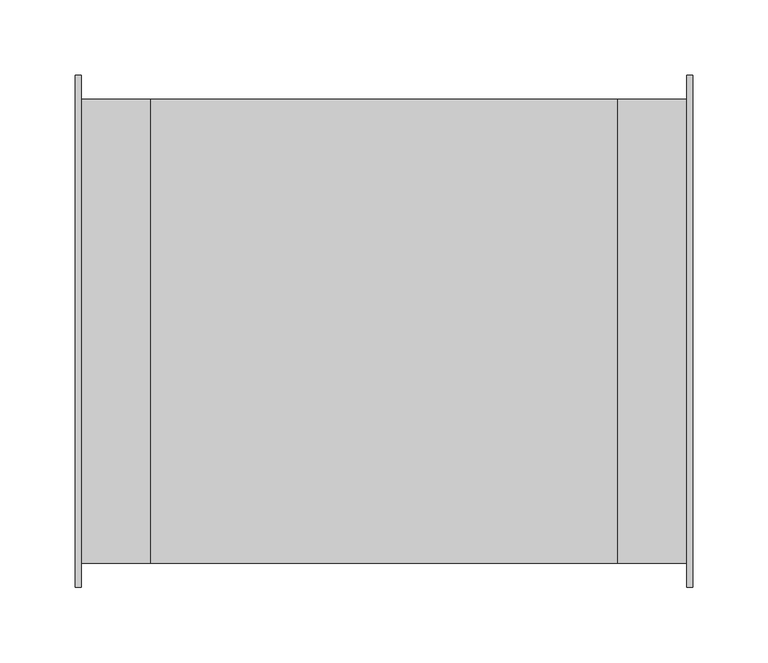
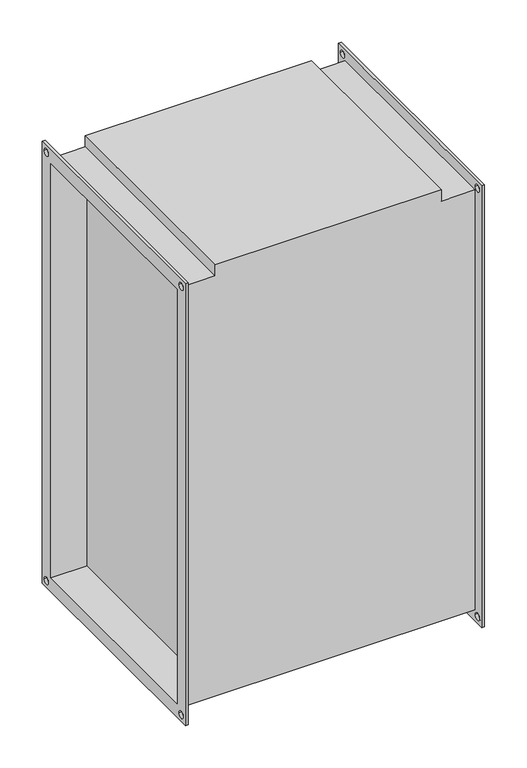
"""IFC4 building model written with IfcOpenShell, lengths in millimetres: proxy geometry, СВ_ВоздухонагревательЭлектрический_КанальныйПрямоугольный_200-1000_SPH-E : SPH-E-600x300/15."""

from ifc_helpers import new_model, si_unit, frame, origin, place, context, project, spatial, polyline, circle_curve, source, transform, mapped, element, save
from ifc_brep_helpers import plane_surface, revolved_surface, advanced_brep


def mechanical_equipment_3e8a8446(model_context):
    return source(origin(), model_context, "Body", "AdvancedBrep", [
        advanced_brep(
        [(-155.0, -154.0, 304.0), (-201.0, -154.0, 304.0), (-201.0, -154.0, -304.0), (201.0, -154.0, -304.0), (201.0, -154.0, 304.0), (155.0, -154.0, 304.0), (155.0, -154.0, 320.0), (-155.0, -154.0, 320.0), (-201.0, 154.0, -304.0), (201.0, 154.0, -304.0), (-201.0, 154.0, 304.0), (-155.0, 154.0, 304.0), (-155.0, 154.0, 320.0), (155.0, 154.0, 320.0), (155.0, 154.0, 304.0), (201.0, 154.0, 304.0), (155.0, 150.0, -300.0), (155.0, 150.0, 300.0), (155.0, -150.0, 300.0), (155.0, -150.0, -300.0), (-155.0, -150.0, 300.0), (-155.0, 150.0, 300.0), (-155.0, 150.0, -300.0), (-155.0, -150.0, -300.0), (-205.0, -170.0, 320.0), (-205.0, 170.0, 320.0), (-205.0, 170.0, -320.0), (-205.0, -170.0, -320.0), (-205.0, -150.0, 300.0), (-205.0, -150.0, -300.0), (-205.0, 150.0, -300.0), (-205.0, 150.0, 300.0), (-205.0, 155.0, 310.0), (-205.0, 165.0, 310.0), (-205.0, -165.0, 310.0), (-205.0, -155.0, 310.0), (-205.0, -165.0, -310.0), (-205.0, -155.0, -310.0), (-205.0, 155.0, -310.0), (-205.0, 165.0, -310.0), (-201.0, -170.0, 320.0), (-201.0, -170.0, -320.0), (-201.0, 170.0, -320.0), (-201.0, 170.0, 320.0), (-201.0, 165.0, 310.0), (-201.0, 155.0, 310.0), (-201.0, -155.0, 310.0), (-201.0, -165.0, 310.0), (-201.0, -155.0, -310.0), (-201.0, -165.0, -310.0), (-201.0, 165.0, -310.0), (-201.0, 155.0, -310.0), (201.0, 170.0, 320.0), (201.0, 170.0, -320.0), (201.0, -170.0, -320.0), (201.0, -170.0, 320.0), (201.0, 155.0, 310.0), (201.0, 165.0, 310.0), (201.0, -165.0, 310.0), (201.0, -155.0, 310.0), (201.0, -165.0, -310.0), (201.0, -155.0, -310.0), (201.0, 155.0, -310.0), (201.0, 165.0, -310.0), (205.0, 170.0, 320.0), (205.0, -170.0, 320.0), (205.0, -170.0, -320.0), (205.0, 170.0, -320.0), (205.0, 150.0, 300.0), (205.0, 150.0, -300.0), (205.0, -150.0, -300.0), (205.0, -150.0, 300.0), (205.0, 165.0, 310.0), (205.0, 155.0, 310.0), (205.0, -155.0, 310.0), (205.0, -165.0, 310.0), (205.0, -155.0, -310.0), (205.0, -165.0, -310.0), (205.0, 165.0, -310.0), (205.0, 155.0, -310.0)],
        [
            (0, 1),
            (1, 2),
            (2, 3),
            (3, 4),
            (4, 5),
            (5, 6),
            (6, 7),
            (7, 0),
            (2, 8),
            (8, 9),
            (9, 3),
            (10, 11),
            (11, 12),
            (12, 13),
            (13, 14),
            (14, 15),
            (15, 9),
            (8, 10),
            (0, 11),
            (10, 1),
            (13, 6),
            (5, 14),
            (16, 17),
            (17, 18),
            (18, 19),
            (19, 16),
            (7, 12),
            (20, 21),
            (21, 22),
            (22, 23),
            (23, 20),
            (4, 15),
            (24, 25),
            (25, 26),
            (26, 27),
            (27, 24),
            (28, 29),
            (29, 30),
            (30, 31),
            (31, 28),
            (32, 33, circle_curve(frame((-205.0, 160.0, 310.0), z_axis=(1.0, 0.0, 0.0), x_axis=(0.0, 1.0, 0.0)), 5.0)),
            (33, 32, circle_curve(frame((-205.0, 160.0, 310.0), z_axis=(1.0, 0.0, 0.0), x_axis=(0.0, 1.0, 0.0)), 5.0)),
            (34, 35, circle_curve(frame((-205.0, -160.0, 310.0), z_axis=(1.0, 0.0, 0.0), x_axis=(0.0, 1.0, 0.0)), 5.0)),
            (35, 34, circle_curve(frame((-205.0, -160.0, 310.0), z_axis=(1.0, 0.0, 0.0), x_axis=(0.0, 1.0, 0.0)), 5.0)),
            (36, 37, circle_curve(frame((-205.0, -160.0, -310.0), z_axis=(1.0, 0.0, 0.0), x_axis=(0.0, 1.0, 0.0)), 5.0)),
            (37, 36, circle_curve(frame((-205.0, -160.0, -310.0), z_axis=(1.0, 0.0, 0.0), x_axis=(0.0, 1.0, 0.0)), 5.0)),
            (38, 39, circle_curve(frame((-205.0, 160.0, -310.0), z_axis=(1.0, 0.0, 0.0), x_axis=(0.0, 1.0, 0.0)), 5.0)),
            (39, 38, circle_curve(frame((-205.0, 160.0, -310.0), z_axis=(1.0, 0.0, 0.0), x_axis=(0.0, 1.0, 0.0)), 5.0)),
            (40, 41),
            (41, 42),
            (42, 43),
            (43, 40),
            (44, 45, circle_curve(frame((-201.0, 160.0, 310.0), z_axis=(-1.0, 0.0, 0.0), x_axis=(0.0, 1.0, 0.0)), 5.0)),
            (45, 44, circle_curve(frame((-201.0, 160.0, 310.0), z_axis=(-1.0, 0.0, 0.0), x_axis=(0.0, 1.0, 0.0)), 5.0)),
            (46, 47, circle_curve(frame((-201.0, -160.0, 310.0), z_axis=(-1.0, 0.0, 0.0), x_axis=(0.0, 1.0, 0.0)), 5.0)),
            (47, 46, circle_curve(frame((-201.0, -160.0, 310.0), z_axis=(-1.0, 0.0, 0.0), x_axis=(0.0, 1.0, 0.0)), 5.0)),
            (48, 49, circle_curve(frame((-201.0, -160.0, -310.0), z_axis=(-1.0, 0.0, 0.0), x_axis=(0.0, 1.0, 0.0)), 5.0)),
            (49, 48, circle_curve(frame((-201.0, -160.0, -310.0), z_axis=(-1.0, 0.0, 0.0), x_axis=(0.0, 1.0, 0.0)), 5.0)),
            (50, 51, circle_curve(frame((-201.0, 160.0, -310.0), z_axis=(-1.0, 0.0, 0.0), x_axis=(0.0, 1.0, 0.0)), 5.0)),
            (51, 50, circle_curve(frame((-201.0, 160.0, -310.0), z_axis=(-1.0, 0.0, 0.0), x_axis=(0.0, 1.0, 0.0)), 5.0)),
            (27, 41),
            (40, 24),
            (26, 42),
            (25, 43),
            (52, 53),
            (53, 54),
            (54, 55),
            (55, 52),
            (56, 57, circle_curve(frame((201.0, 160.0, 310.0), z_axis=(1.0, 0.0, 0.0), x_axis=(0.0, 1.0, 0.0)), 5.0)),
            (57, 56, circle_curve(frame((201.0, 160.0, 310.0), z_axis=(1.0, 0.0, 0.0), x_axis=(0.0, 1.0, 0.0)), 5.0)),
            (58, 59, circle_curve(frame((201.0, -160.0, 310.0), z_axis=(1.0, 0.0, 0.0), x_axis=(0.0, 1.0, 0.0)), 5.0)),
            (59, 58, circle_curve(frame((201.0, -160.0, 310.0), z_axis=(1.0, 0.0, 0.0), x_axis=(0.0, 1.0, 0.0)), 5.0)),
            (60, 61, circle_curve(frame((201.0, -160.0, -310.0), z_axis=(1.0, 0.0, 0.0), x_axis=(0.0, 1.0, 0.0)), 5.0)),
            (61, 60, circle_curve(frame((201.0, -160.0, -310.0), z_axis=(1.0, 0.0, 0.0), x_axis=(0.0, 1.0, 0.0)), 5.0)),
            (62, 63, circle_curve(frame((201.0, 160.0, -310.0), z_axis=(1.0, 0.0, 0.0), x_axis=(0.0, 1.0, 0.0)), 5.0)),
            (63, 62, circle_curve(frame((201.0, 160.0, -310.0), z_axis=(1.0, 0.0, 0.0), x_axis=(0.0, 1.0, 0.0)), 5.0)),
            (64, 65),
            (65, 66),
            (66, 67),
            (67, 64),
            (68, 69),
            (69, 70),
            (70, 71),
            (71, 68),
            (72, 73, circle_curve(frame((205.0, 160.0, 310.0), z_axis=(-1.0, 0.0, 0.0), x_axis=(0.0, 1.0, 0.0)), 5.0)),
            (73, 72, circle_curve(frame((205.0, 160.0, 310.0), z_axis=(-1.0, 0.0, 0.0), x_axis=(0.0, 1.0, 0.0)), 5.0)),
            (74, 75, circle_curve(frame((205.0, -160.0, 310.0), z_axis=(-1.0, 0.0, 0.0), x_axis=(0.0, 1.0, 0.0)), 5.0)),
            (75, 74, circle_curve(frame((205.0, -160.0, 310.0), z_axis=(-1.0, 0.0, 0.0), x_axis=(0.0, 1.0, 0.0)), 5.0)),
            (76, 77, circle_curve(frame((205.0, -160.0, -310.0), z_axis=(-1.0, 0.0, 0.0), x_axis=(0.0, 1.0, 0.0)), 5.0)),
            (77, 76, circle_curve(frame((205.0, -160.0, -310.0), z_axis=(-1.0, 0.0, 0.0), x_axis=(0.0, 1.0, 0.0)), 5.0)),
            (78, 79, circle_curve(frame((205.0, 160.0, -310.0), z_axis=(-1.0, 0.0, 0.0), x_axis=(0.0, 1.0, 0.0)), 5.0)),
            (79, 78, circle_curve(frame((205.0, 160.0, -310.0), z_axis=(-1.0, 0.0, 0.0), x_axis=(0.0, 1.0, 0.0)), 5.0)),
            (55, 65),
            (64, 52),
            (54, 66),
            (53, 67),
            (31, 21),
            (20, 28),
            (30, 22),
            (29, 23),
            (68, 17),
            (16, 69),
            (19, 70),
            (18, 71),
            (32, 45),
            (44, 33),
            (56, 73),
            (72, 57),
            (34, 47),
            (46, 35),
            (58, 75),
            (74, 59),
            (36, 49),
            (48, 37),
            (60, 77),
            (76, 61),
            (38, 51),
            (50, 39),
            (62, 79),
            (78, 63),
        ],
        [
            plane_surface(frame((-155.0, -154.0, 304.0), z_axis=(0.0, -1.0, 0.0), x_axis=(-1.0, 0.0, 0.0))),
            plane_surface(frame((-155.0, -154.0, -304.0), z_axis=(0.0, 0.0, -1.0), x_axis=(-1.0, 0.0, 0.0))),
            plane_surface(frame((-155.0, 154.0, -304.0), z_axis=(0.0, 1.0, 0.0), x_axis=(-1.0, 0.0, 0.0))),
            plane_surface(frame((-155.0, 154.0, 304.0), z_axis=(0.0, 0.0, 1.0), x_axis=(-1.0, 0.0, 0.0))),
            plane_surface(frame((155.0, -154.0, 320.0), z_axis=(1.0, 0.0, 0.0), x_axis=(0.0, 0.0, -1.0))),
            plane_surface(frame((-155.0, -154.0, 320.0), z_axis=(-1.0, 0.0, 0.0), x_axis=(0.0, 0.0, 1.0))),
            plane_surface(frame((155.0, 154.0, 320.0), z_axis=(0.0, 0.0, 1.0), x_axis=(-1.0, 0.0, 0.0))),
            plane_surface(frame((201.0, 154.0, 304.0), z_axis=(0.0, 0.0, 1.0), x_axis=(-1.0, 0.0, 0.0))),
            plane_surface(frame((-205.0, -170.0, 320.0), z_axis=(-1.0, 0.0, 0.0), x_axis=(0.0, 0.0, 1.0))),
            plane_surface(frame((-201.0, -170.0, 320.0), z_axis=(1.0, 0.0, 0.0), x_axis=(0.0, 0.0, -1.0))),
            plane_surface(frame((-201.0, -170.0, 320.0), z_axis=(0.0, -1.0, 0.0), x_axis=(-1.0, 0.0, 0.0))),
            plane_surface(frame((-201.0, -170.0, -320.0), z_axis=(0.0, 0.0, -1.0), x_axis=(-1.0, 0.0, 0.0))),
            plane_surface(frame((-201.0, 170.0, -320.0), z_axis=(0.0, 1.0, 0.0), x_axis=(-1.0, 0.0, 0.0))),
            plane_surface(frame((-201.0, 170.0, 320.0), z_axis=(0.0, 0.0, 1.0), x_axis=(-1.0, 0.0, 0.0))),
            plane_surface(frame((201.0, 150.0, -300.0), z_axis=(-1.0, 0.0, 0.0), x_axis=(0.0, 0.0, 1.0))),
            plane_surface(frame((205.0, 150.0, -300.0), z_axis=(1.0, 0.0, 0.0), x_axis=(0.0, 0.0, -1.0))),
            plane_surface(frame((205.0, 170.0, 320.0), z_axis=(0.0, 0.0, 1.0), x_axis=(-1.0, 0.0, 0.0))),
            plane_surface(frame((205.0, -170.0, 320.0), z_axis=(0.0, -1.0, 0.0), x_axis=(-1.0, 0.0, 0.0))),
            plane_surface(frame((205.0, -170.0, -320.0), z_axis=(0.0, 0.0, -1.0), x_axis=(-1.0, 0.0, 0.0))),
            plane_surface(frame((205.0, 170.0, -320.0), z_axis=(0.0, 1.0, 0.0), x_axis=(-1.0, 0.0, 0.0))),
            plane_surface(frame((-201.0, -150.0, 300.0), z_axis=(0.0, 0.0, -1.0), x_axis=(-1.0, 0.0, 0.0))),
            plane_surface(frame((-201.0, 150.0, 300.0), z_axis=(0.0, -1.0, 0.0), x_axis=(-1.0, 0.0, 0.0))),
            plane_surface(frame((-201.0, 150.0, -300.0), z_axis=(0.0, 0.0, 1.0), x_axis=(-1.0, 0.0, 0.0))),
            plane_surface(frame((-201.0, -150.0, -300.0), z_axis=(0.0, 1.0, 0.0), x_axis=(-1.0, 0.0, 0.0))),
            plane_surface(frame((205.0, 150.0, 300.0), z_axis=(0.0, -1.0, 0.0), x_axis=(-1.0, 0.0, 0.0))),
            plane_surface(frame((205.0, 150.0, -300.0), z_axis=(0.0, 0.0, 1.0), x_axis=(-1.0, 0.0, 0.0))),
            plane_surface(frame((205.0, -150.0, -300.0), z_axis=(0.0, 1.0, 0.0), x_axis=(-1.0, 0.0, 0.0))),
            plane_surface(frame((205.0, -150.0, 300.0), z_axis=(0.0, 0.0, -1.0), x_axis=(-1.0, 0.0, 0.0))),
            revolved_surface(polyline([(-201.0, 165.0, 310.0), (-205.0, 165.0, 310.0)]), (-205.0, 160.0, 310.0), (1.0, 0.0, 0.0)),
            revolved_surface(polyline([(205.0, 165.0, 310.0), (201.0, 165.0, 310.0)]), (-205.0, 160.0, 310.0), (1.0, 0.0, 0.0)),
            revolved_surface(polyline([(-201.0, -155.0, 310.0), (-205.0, -155.0, 310.0)]), (0.0, -160.0, 310.0), (1.0, 0.0, 0.0)),
            revolved_surface(polyline([(205.0, -155.0, 310.0), (201.0, -155.0, 310.0)]), (0.0, -160.0, 310.0), (1.0, 0.0, 0.0)),
            revolved_surface(polyline([(-201.0, -155.0, -310.0), (-205.0, -155.0, -310.0)]), (0.0, -160.0, -310.0), (1.0, 0.0, 0.0)),
            revolved_surface(polyline([(205.0, -155.0, -310.0), (201.0, -155.0, -310.0)]), (0.0, -160.0, -310.0), (1.0, 0.0, 0.0)),
            revolved_surface(polyline([(-201.0, 165.0, -310.0), (-205.0, 165.0, -310.0)]), (0.0, 160.0, -310.0), (1.0, 0.0, 0.0)),
            revolved_surface(polyline([(205.0, 165.0, -310.0), (201.0, 165.0, -310.0)]), (0.0, 160.0, -310.0), (1.0, 0.0, 0.0)),
        ],
        [
            (0, [[1, 2, 3, 4, 5, 6, 7, 8]]),
            (1, [[-3, 9, 10, 11]]),
            (2, [[12, 13, 14, 15, 16, 17, -10, 18]]),
            (3, [[-1, 19, -12, 20]]),
            (4, [[21, -6, 22, -15]]),
            (4, [[23, 24, 25, 26]]),
            (5, [[27, -13, -19, -8]]),
            (5, [[28, 29, 30, 31]]),
            (6, [[-21, -14, -27, -7]]),
            (7, [[-5, 32, -16, -22]]),
            (8, [[33, 34, 35, 36], [37, 38, 39, 40], [41, 42], [43, 44], [45, 46], [47, 48]]),
            (9, [[49, 50, 51, 52], [-2, -20, -18, -9], [53, 54], [55, 56], [57, 58], [59, 60]]),
            (10, [[-36, 61, -49, 62]]),
            (11, [[-35, 63, -50, -61]]),
            (12, [[-34, 64, -51, -63]]),
            (13, [[-33, -62, -52, -64]]),
            (14, [[65, 66, 67, 68], [-4, -11, -17, -32], [69, 70], [71, 72], [73, 74], [75, 76]]),
            (15, [[77, 78, 79, 80], [81, 82, 83, 84], [85, 86], [87, 88], [89, 90], [91, 92]]),
            (16, [[-68, 93, -77, 94]]),
            (17, [[-67, 95, -78, -93]]),
            (18, [[-66, 96, -79, -95]]),
            (19, [[-65, -94, -80, -96]]),
            (20, [[-40, 97, -28, 98]]),
            (21, [[-39, 99, -29, -97]]),
            (22, [[-38, 100, -30, -99]]),
            (23, [[-37, -98, -31, -100]]),
            (24, [[-81, 101, -23, 102]]),
            (25, [[-82, -102, -26, 103]]),
            (26, [[-83, -103, -25, 104]]),
            (27, [[-101, -84, -104, -24]]),
            (28, [[105, -53, 106, -41]]),
            (29, [[107, -85, 108, -69]]),
            (28, [[-105, -42, -106, -54]]),
            (29, [[-107, -70, -108, -86]]),
            (30, [[109, -55, 110, -43]]),
            (31, [[111, -87, 112, -71]]),
            (30, [[-109, -44, -110, -56]]),
            (31, [[-111, -72, -112, -88]]),
            (32, [[113, -57, 114, -45]]),
            (33, [[115, -89, 116, -73]]),
            (32, [[-113, -46, -114, -58]]),
            (33, [[-115, -74, -116, -90]]),
            (34, [[117, -59, 118, -47]]),
            (35, [[119, -91, 120, -75]]),
            (34, [[-117, -48, -118, -60]]),
            (35, [[-119, -76, -120, -92]]),
        ],
    ),
    ])


if __name__ == "__main__":
    model = new_model("IFC4")
    model_context = context("Model", 3, world=origin())
    ifc_project = project(units=[si_unit("LENGTHUNIT", "METRE", prefix="MILLI")], contexts=[model_context])
    site = spatial("IfcSite", under=ifc_project)
    building = spatial("IfcBuilding", under=site)
    placement = place(None, origin())
    mechanical_equipment_shape = mechanical_equipment_3e8a8446(model_context)
    element("IfcBuildingElementProxy", 1, Name="СВ_ВоздухонагревательЭлектрический_КанальныйПрямоугольный_200-1000_SPH-E : SPH-E-600x300/15", ObjectType="СВ_ВоздухонагревательЭлектрический_КанальныйПрямоугольный_200-1000_SPH-E : SPH-E-600x300/15", at=placement, inside=building, context=model_context, shape_type="MappedRepresentation", body=[
        mapped(mechanical_equipment_shape, transform((0.0, 0.0, 0.0), x_axis=(1.0, 0.0, 0.0), y_axis=(0.0, 1.0, 0.0), z_axis=(0.0, 0.0, 1.0))),
    ])
    save(model, "model.ifc")
